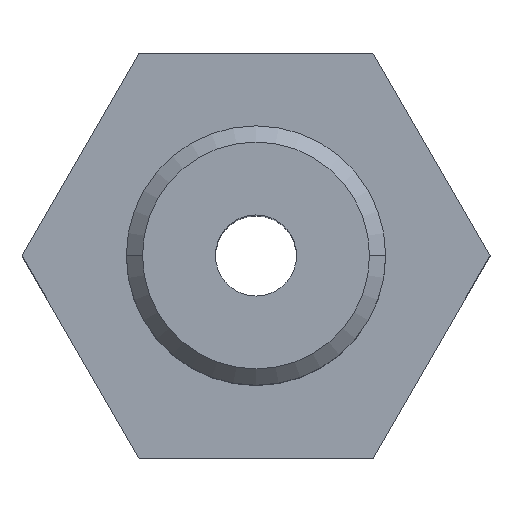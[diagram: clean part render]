
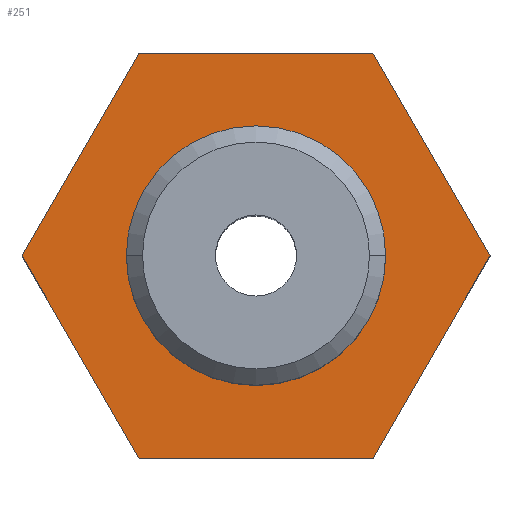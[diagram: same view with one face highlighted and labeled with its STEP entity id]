
A CAD part, top view. The second image highlights one B-rep face of the part: STEP entity #251.
In plain terms, the highlighted planar face has unit normal (0, 0, 1).
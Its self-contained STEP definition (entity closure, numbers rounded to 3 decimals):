
#5 = CARTESIAN_POINT ( 'NONE',  ( 1.443, -2.5, 2. ) ) ;
#11 = DIRECTION ( 'NONE',  ( -0.5, 0.866, 0. ) ) ;
#25 = DIRECTION ( 'NONE',  ( -0.5, -0.866, 0. ) ) ;
#30 = ORIENTED_EDGE ( 'NONE', *, *, #368, .F. ) ;
#31 = CARTESIAN_POINT ( 'NONE',  ( 1.443, -2.5, 2. ) ) ;
#55 = CARTESIAN_POINT ( 'NONE',  ( -1.6, 0., 2. ) ) ;
#56 = EDGE_CURVE ( 'NONE', #443, #592, #343, .T. ) ;
#62 = LINE ( 'NONE', #659, #244 ) ;
#74 = VECTOR ( 'NONE', #129, 1000. ) ;
#88 = EDGE_CURVE ( 'NONE', #345, #257, #248, .T. ) ;
#90 = CARTESIAN_POINT ( 'NONE',  ( 0., 0., 2. ) ) ;
#95 = DIRECTION ( 'NONE',  ( -1., 0., 0. ) ) ;
#96 = CARTESIAN_POINT ( 'NONE',  ( -2.887, 0., 2. ) ) ;
#109 = DIRECTION ( 'NONE',  ( 0.5, -0.866, 0. ) ) ;
#110 = DIRECTION ( 'NONE',  ( 1., 0., 0. ) ) ;
#115 = LINE ( 'NONE', #335, #266 ) ;
#124 = ORIENTED_EDGE ( 'NONE', *, *, #365, .T. ) ;
#129 = DIRECTION ( 'NONE',  ( 0.5, 0.866, 0. ) ) ;
#133 = ORIENTED_EDGE ( 'NONE', *, *, #56, .T. ) ;
#135 = CARTESIAN_POINT ( 'NONE',  ( 1.443, 2.5, 2. ) ) ;
#137 = VERTEX_POINT ( 'NONE', #616 ) ;
#142 = CARTESIAN_POINT ( 'NONE',  ( -1.443, 2.5, 2. ) ) ;
#152 = EDGE_CURVE ( 'NONE', #155, #443, #352, .T. ) ;
#153 = LINE ( 'NONE', #96, #336 ) ;
#155 = VERTEX_POINT ( 'NONE', #696 ) ;
#211 = ORIENTED_EDGE ( 'NONE', *, *, #517, .T. ) ;
#217 = DIRECTION ( 'NONE',  ( 0., 0., 1. ) ) ;
#243 = DIRECTION ( 'NONE',  ( 1., 0., 0. ) ) ;
#244 = VECTOR ( 'NONE', #11, 1000. ) ;
#247 = FACE_BOUND ( 'NONE', #349, .T. ) ;
#248 = CIRCLE ( 'NONE', #652, 1.6 ) ;
#249 = VERTEX_POINT ( 'NONE', #31 ) ;
#251 = ADVANCED_FACE ( 'NONE', ( #247, #360 ), #580, .T. ) ;
#257 = VERTEX_POINT ( 'NONE', #55 ) ;
#264 = DIRECTION ( 'NONE',  ( 1., 0., 0. ) ) ;
#266 = VECTOR ( 'NONE', #110, 1000. ) ;
#285 = CARTESIAN_POINT ( 'NONE',  ( -1.443, 2.5, 2. ) ) ;
#324 = EDGE_LOOP ( 'NONE', ( #704, #354, #391, #133, #211, #124 ) ) ;
#327 = DIRECTION ( 'NONE',  ( 1., 0., 0. ) ) ;
#335 = CARTESIAN_POINT ( 'NONE',  ( -1.443, -2.5, 2. ) ) ;
#336 = VECTOR ( 'NONE', #109, 1000. ) ;
#343 = LINE ( 'NONE', #142, #468 ) ;
#345 = VERTEX_POINT ( 'NONE', #435 ) ;
#349 = EDGE_LOOP ( 'NONE', ( #30, #622 ) ) ;
#352 = LINE ( 'NONE', #135, #420 ) ;
#354 = ORIENTED_EDGE ( 'NONE', *, *, #666, .T. ) ;
#360 = FACE_OUTER_BOUND ( 'NONE', #324, .T. ) ;
#365 = EDGE_CURVE ( 'NONE', #599, #249, #115, .T. ) ;
#368 = EDGE_CURVE ( 'NONE', #257, #345, #674, .T. ) ;
#386 = CARTESIAN_POINT ( 'NONE',  ( 0., 0., 2. ) ) ;
#391 = ORIENTED_EDGE ( 'NONE', *, *, #152, .T. ) ;
#420 = VECTOR ( 'NONE', #95, 1000. ) ;
#435 = CARTESIAN_POINT ( 'NONE',  ( 1.6, 0., 2. ) ) ;
#443 = VERTEX_POINT ( 'NONE', #285 ) ;
#453 = LINE ( 'NONE', #5, #74 ) ;
#468 = VECTOR ( 'NONE', #25, 1000. ) ;
#484 = AXIS2_PLACEMENT_3D ( 'NONE', #386, #217, #327 ) ;
#499 = DIRECTION ( 'NONE',  ( 0., 0., 1. ) ) ;
#517 = EDGE_CURVE ( 'NONE', #592, #599, #153, .T. ) ;
#573 = DIRECTION ( 'NONE',  ( 0., 0., 1. ) ) ;
#580 = PLANE ( 'NONE',  #610 ) ;
#587 = CARTESIAN_POINT ( 'NONE',  ( -1.443, -2.5, 2. ) ) ;
#592 = VERTEX_POINT ( 'NONE', #699 ) ;
#599 = VERTEX_POINT ( 'NONE', #587 ) ;
#610 = AXIS2_PLACEMENT_3D ( 'NONE', #90, #499, #264 ) ;
#616 = CARTESIAN_POINT ( 'NONE',  ( 2.887, 0., 2. ) ) ;
#622 = ORIENTED_EDGE ( 'NONE', *, *, #88, .F. ) ;
#642 = EDGE_CURVE ( 'NONE', #249, #137, #453, .T. ) ;
#652 = AXIS2_PLACEMENT_3D ( 'NONE', #681, #573, #243 ) ;
#659 = CARTESIAN_POINT ( 'NONE',  ( 2.887, 0., 2. ) ) ;
#666 = EDGE_CURVE ( 'NONE', #137, #155, #62, .T. ) ;
#674 = CIRCLE ( 'NONE', #484, 1.6 ) ;
#681 = CARTESIAN_POINT ( 'NONE',  ( 0., 0., 2. ) ) ;
#696 = CARTESIAN_POINT ( 'NONE',  ( 1.443, 2.5, 2. ) ) ;
#699 = CARTESIAN_POINT ( 'NONE',  ( -2.887, 0., 2. ) ) ;
#704 = ORIENTED_EDGE ( 'NONE', *, *, #642, .T. ) ;
